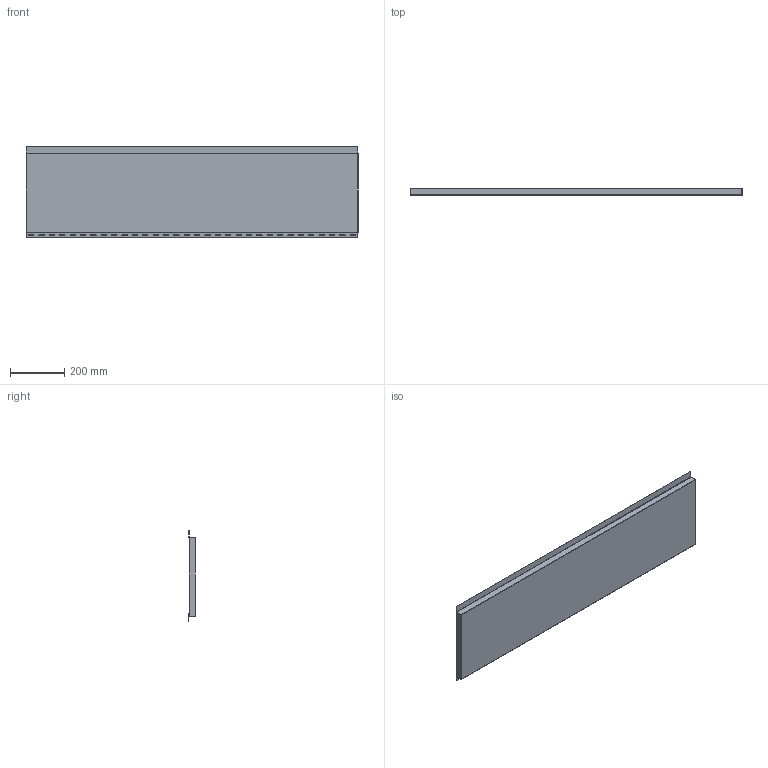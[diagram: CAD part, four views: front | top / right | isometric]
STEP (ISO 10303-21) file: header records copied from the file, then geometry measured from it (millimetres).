
FILE_DESCRIPTION(/* description */ (''),/* implementation_level */ '2;1');
FILE_NAME(/* name */ 'SPPG24.12X48.stp',/* time_stamp */ '2023-11-08T16:51:05-05:00',/* author */ ('Olivier St-Arneault'),/* organization */ (''),/* preprocessor_version */ 'ST-DEVELOPER v19.2',/* originating_system */ 'Autodesk Inventor 2024',/* authorisation */ '');
FILE_SCHEMA (('AUTOMOTIVE_DESIGN { 1 0 10303 214 3 1 1 }'));
Length unit declared in the file: inch
Products named in the file (1): SPPG24.12X48
Bounding box: 1219.2 x 25.4 x 333.96 mm (x, y, z)
Volume: 8107895.6 mm3; surface area: 1776376.2 mm2
Topology: 2 solids, 2 shells, 180 faces, 520 edges, 344 vertices
Faces by surface type: plane 98, cylinder 82
Entity records: 6116 total; most frequent: DIRECTION 1046, CARTESIAN_POINT 1045, ORIENTED_EDGE 1040, EDGE_CURVE 520, LINE 356, VECTOR 356, AXIS2_PLACEMENT_3D 345, VERTEX_POINT 344
